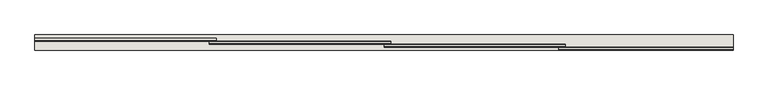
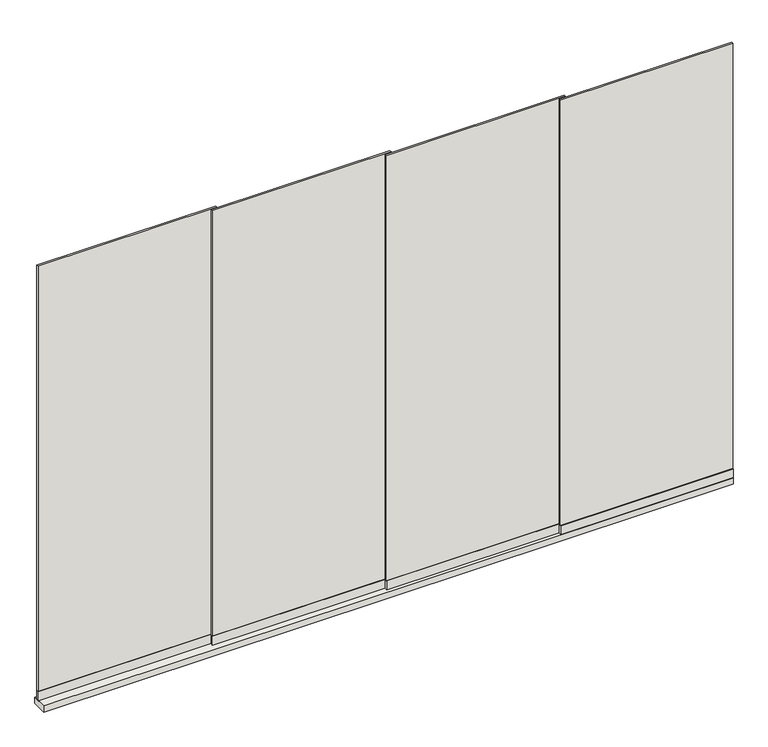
"""IFC4 building model written with IfcOpenShell, lengths in millimetres: wall geometry, Renson_Amani_Glass_Sliding_Panel : Renson_Amani_Glass_Sliding_Panel."""

import ifcopenshell
import ifcopenshell.guid

model = None  # the IFC model being written
_history = None  # IfcOwnerHistory: only IFC2X3 demands one
_inside = {}  # id of a spatial element -> (the spatial element, [elements in it])
_under = {}  # id of a project, library or spatial element -> (it, [spatial elements below it])
_declared = {}  # id of a project -> (the project, [libraries it declares])
_typed = {}  # id of a type object -> (the type object, [elements of that type])
_made_of = {}  # id of a material, layer set ... -> (it, [elements and type objects made of it])


def new_model(schema):
    """Start an empty IFC model of exactly this schema.

    Asked for "IFC4X3", IfcOpenShell would pick the latest addendum, in which some entities
    have other attributes; the version numbers below select the first issue.
    IFC2X3 requires an IfcOwnerHistory on every rooted entity: one is made here for all.
    """
    global model, _history
    if schema == "IFC4X3":
        model = ifcopenshell.file(schema_version=(4, 3, 0, 0))
    else:
        model = ifcopenshell.file(schema=schema)
    _inside.clear()
    _under.clear()
    _declared.clear()
    _typed.clear()
    _made_of.clear()
    _history = None
    if model.schema == "IFC2X3":
        org = make("IfcOrganization", Name="unknown")
        user = make(
            "IfcPersonAndOrganization",
            ThePerson=make("IfcPerson", FamilyName="unknown"),
            TheOrganization=org,
        )
        app = make(
            "IfcApplication",
            ApplicationDeveloper=org,
            Version="unknown",
            ApplicationFullName="unknown",
            ApplicationIdentifier="unknown",
        )
        _history = make(
            "IfcOwnerHistory",
            OwningUser=user,
            OwningApplication=app,
            ChangeAction="ADDED",
            CreationDate=0,
        )
    return model


def make(cls, **values):
    """One entity of the class cls with the attributes given. An attribute that is None is left unset."""
    return model.create_entity(
        cls, **{name: value for name, value in values.items() if value is not None}
    )


def rooted(cls, **values):
    """An entity with a GlobalId (a new one), such as an element, a storey or a relation."""
    return make(cls, GlobalId=ifcopenshell.guid.new(), OwnerHistory=_history, **values)


def si_unit(unit_type, name, prefix=None):
    """IfcSIUnit, for example si_unit("LENGTHUNIT", "METRE", prefix="MILLI")."""
    return make("IfcSIUnit", UnitType=unit_type, Prefix=prefix, Name=name)


def assignment(units):
    """IfcUnitAssignment: the units of a project."""
    return None if units is None else make("IfcUnitAssignment", Units=units)


def point(xyz):
    """IfcCartesianPoint."""
    return None if xyz is None else make("IfcCartesianPoint", Coordinates=xyz)


def direction(xyz):
    """IfcDirection."""
    return None if xyz is None else make("IfcDirection", DirectionRatios=xyz)


def frame(location, z_axis=None, x_axis=None):
    """IfcAxis2Placement3D, a coordinate frame: its origin and axes. An axis left out is left unset."""
    return make(
        "IfcAxis2Placement3D",
        Location=point(location),
        Axis=direction(z_axis),
        RefDirection=direction(x_axis),
    )


def origin():
    """The frame at (0, 0, 0) with its axes left unset."""
    return frame((0.0, 0.0, 0.0))


def origin_with_axes():
    """The frame at (0, 0, 0) with the z axis (0, 0, 1) and the x axis (1, 0, 0) written out."""
    return frame((0.0, 0.0, 0.0), z_axis=(0.0, 0.0, 1.0), x_axis=(1.0, 0.0, 0.0))


def place(relative_to, where):
    """IfcLocalPlacement: puts the frame where relative to a parent placement (None: the world)."""
    return make(
        "IfcLocalPlacement", PlacementRelTo=relative_to, RelativePlacement=where
    )


def context(
    kind, dimensions, precision=None, world=None, true_north=None, identifier=None
):
    """IfcGeometricRepresentationContext, for example the 3D "Model" context."""
    return make(
        "IfcGeometricRepresentationContext",
        ContextIdentifier=identifier,
        ContextType=kind,
        CoordinateSpaceDimension=dimensions,
        Precision=precision,
        WorldCoordinateSystem=world,
        TrueNorth=true_north,
    )


def project(units=None, contexts=None):
    """IfcProject with its units and contexts."""
    return rooted(
        "IfcProject",
        Name="project",
        RepresentationContexts=contexts,
        UnitsInContext=assignment(units),
    )


def spatial(cls, under=None, at=None, **own):
    """A site, building, storey or space (cls), placed at a placement, below another one or the project."""
    s = rooted(cls, ObjectPlacement=at, **own)
    if under is not None:
        _under.setdefault(under.id(), (under, []))[1].append(s)
    return s


def polyline(points):
    """IfcPolyline through the points."""
    return make("IfcPolyline", Points=[point(p) for p in points])


def outline(outer, holes=None, kind="AREA"):
    """IfcArbitraryClosedProfileDef: a profile drawn as a closed curve; with holes, ...WithVoids."""
    if holes is None:
        return make("IfcArbitraryClosedProfileDef", ProfileType=kind, OuterCurve=outer)
    return make(
        "IfcArbitraryProfileDefWithVoids",
        ProfileType=kind,
        OuterCurve=outer,
        InnerCurves=holes,
    )


def extrude(swept, where, along, depth):
    """IfcExtrudedAreaSolid: the profile swept, set in the frame where, extruded along a direction by depth."""
    return make(
        "IfcExtrudedAreaSolid",
        SweptArea=swept,
        Position=where,
        ExtrudedDirection=direction(along),
        Depth=depth,
    )


def shape(context_of_items, identifier, shape_type, items):
    """IfcShapeRepresentation: the items that make up one representation, for example the "Body"."""
    return make(
        "IfcShapeRepresentation",
        ContextOfItems=context_of_items,
        RepresentationIdentifier=identifier,
        RepresentationType=shape_type,
        Items=items,
    )


def source(mapping_origin, context_of_items, identifier, shape_type, items):
    """IfcRepresentationMap: a shape defined once, which mapped items show again and again."""
    return make(
        "IfcRepresentationMap",
        MappingOrigin=mapping_origin,
        MappedRepresentation=shape(context_of_items, identifier, shape_type, items),
    )


def transform(
    local_origin,
    x_axis=None,
    y_axis=None,
    z_axis=None,
    scale=None,
    scale2=None,
    scale3=None,
    uniform=True,
):
    """IfcCartesianTransformationOperator3D, or its non-uniform kind. x_axis, y_axis, z_axis: its Axis1, 2, 3."""
    if uniform:
        return make(
            "IfcCartesianTransformationOperator3D",
            Axis1=direction(x_axis),
            Axis2=direction(y_axis),
            LocalOrigin=point(local_origin),
            Scale=scale,
            Axis3=direction(z_axis),
        )
    return make(
        "IfcCartesianTransformationOperator3DnonUniform",
        Axis1=direction(x_axis),
        Axis2=direction(y_axis),
        LocalOrigin=point(local_origin),
        Scale=scale,
        Axis3=direction(z_axis),
        Scale2=scale2,
        Scale3=scale3,
    )


def mapped(mapping_source, mapping_target):
    """IfcMappedItem: shows the shape of a source again, moved by a transform."""
    return make(
        "IfcMappedItem", MappingSource=mapping_source, MappingTarget=mapping_target
    )


def made_of(thing, what):
    """Note that an element or type object is made of a material, layer set ...; save() writes the relation."""
    if what is not None:
        _made_of.setdefault(what.id(), (what, []))[1].append(thing)
    return thing


def element(
    cls,
    number,
    at=None,
    inside=None,
    cuts=None,
    type_object=None,
    material=None,
    context=None,
    identifier="Body",
    shape_type=None,
    held_by="IfcProductDefinitionShape",
    body=None,
    shapes=None,
    **own,
):
    """One element of the class cls, such as IfcWall. Its Tag is "e" and its number.

    at: its placement. inside: the storey or other place that contains it. cuts: it is an
    opening in that element (IfcRelVoidsElement). A single representation is given by context,
    identifier, shape_type and body (its items); several are given by shapes. held_by: the class
    of the entity that holds the representations. save() writes the other relations.
    """
    e = rooted(cls, Tag="e%d" % number, ObjectPlacement=at, **own)
    if body is not None:
        shapes = [shape(context, identifier, shape_type, body)]
    if shapes is not None:
        e.Representation = make(held_by, Representations=shapes)
    if inside is not None:
        _inside.setdefault(inside.id(), (inside, []))[1].append(e)
    if cuts is not None:
        rooted(
            "IfcRelVoidsElement", RelatingBuildingElement=cuts, RelatedOpeningElement=e
        )
    if type_object is not None:
        _typed.setdefault(type_object.id(), (type_object, []))[1].append(e)
    return made_of(e, material)


def aggregate(whole, parts):
    """IfcRelAggregates: a whole, such as a stair, and the parts it consists of."""
    return rooted("IfcRelAggregates", RelatingObject=whole, RelatedObjects=parts)


def save(model, path):
    """Write the relations noted so far, then the file.

    IfcRelAggregates (storeys below a building ...), IfcRelContainedInSpatialStructure (elements
    in a storey), IfcRelDefinesByType, IfcRelAssociatesMaterial and IfcRelDeclares: one each for
    every whole, place, type object, material and project.
    """
    for whole, parts in _under.values():
        aggregate(whole, parts)
    for where, things in _inside.values():
        rooted(
            "IfcRelContainedInSpatialStructure",
            RelatedElements=things,
            RelatingStructure=where,
        )
    for kind, things in _typed.values():
        rooted("IfcRelDefinesByType", RelatedObjects=things, RelatingType=kind)
    for what, things in _made_of.values():
        rooted("IfcRelAssociatesMaterial", RelatedObjects=things, RelatingMaterial=what)
    for by, libraries in _declared.values():
        rooted("IfcRelDeclares", RelatingContext=by, RelatedDefinitions=libraries)
    model.write(path)


def wall_eb70c0bf(model_context):
    return source(origin(), model_context, "Body", "SweptSolid", [
        extrude(outline(polyline([(-1990.0, 48.0), (-2950.0, 48.0), (-2950.0, 64.0), (-1990.0, 64.0), (-1990.0, 48.0)])), frame((0.0, 0.0, 35.0), z_axis=(0.0, 0.0, 1.0), x_axis=(1.0, 0.0, 0.0)), (0.0, 0.0, 1.0), 51.0),
        extrude(outline(polyline([(750.0, 0.0), (-2950.0, 0.0), (-2950.0, 80.0), (750.0, 80.0), (750.0, 0.0)])), origin_with_axes(), (0.0, 0.0, 1.0), 35.0),
        extrude(outline(polyline([(750.0, 3.0), (-175.0, 3.0), (-175.0, 13.0), (750.0, 13.0), (750.0, 3.0)])), frame((0.0, 0.0, 86.0), z_axis=(0.0, 0.0, 1.0), x_axis=(1.0, 0.0, 0.0)), (0.0, 0.0, 1.0), 2414.0),
        extrude(outline(polyline([(-140.0, 19.0), (-1100.0, 19.0), (-1100.0, 29.0), (-140.0, 29.0), (-140.0, 19.0)])), frame((0.0, 0.0, 86.0), z_axis=(0.0, 0.0, 1.0), x_axis=(1.0, 0.0, 0.0)), (0.0, 0.0, 1.0), 2414.0),
        extrude(outline(polyline([(-1990.0, 51.0), (-2950.0, 51.0), (-2950.0, 61.0), (-1990.0, 61.0), (-1990.0, 51.0)])), frame((0.0, 0.0, 86.0), z_axis=(0.0, 0.0, 1.0), x_axis=(1.0, 0.0, 0.0)), (0.0, 0.0, 1.0), 2414.0),
        extrude(outline(polyline([(-1065.0, 35.0), (-2025.0, 35.0), (-2025.0, 45.0), (-1065.0, 45.0), (-1065.0, 35.0)])), frame((0.0, 0.0, 86.0), z_axis=(0.0, 0.0, 1.0), x_axis=(1.0, 0.0, 0.0)), (0.0, 0.0, 1.0), 2414.0),
        extrude(outline(polyline([(750.0, 0.0), (-175.0, 0.0), (-175.0, 16.0), (750.0, 16.0), (750.0, 0.0)])), frame((0.0, 0.0, 35.0), z_axis=(0.0, 0.0, 1.0), x_axis=(1.0, 0.0, 0.0)), (0.0, 0.0, 1.0), 51.0),
        extrude(outline(polyline([(-140.0, 16.0), (-1100.0, 16.0), (-1100.0, 32.0), (-140.0, 32.0), (-140.0, 16.0)])), frame((0.0, 0.0, 35.0), z_axis=(0.0, 0.0, 1.0), x_axis=(1.0, 0.0, 0.0)), (0.0, 0.0, 1.0), 51.0),
        extrude(outline(polyline([(-1065.0, 32.0), (-2025.0, 32.0), (-2025.0, 48.0), (-1065.0, 48.0), (-1065.0, 32.0)])), frame((0.0, 0.0, 35.0), z_axis=(0.0, 0.0, 1.0), x_axis=(1.0, 0.0, 0.0)), (0.0, 0.0, 1.0), 51.0),
    ])


if __name__ == "__main__":
    model = new_model("IFC4")
    model_context = context("Model", 3, world=origin())
    ifc_project = project(units=[si_unit("LENGTHUNIT", "METRE", prefix="MILLI")], contexts=[model_context])
    site = spatial("IfcSite", under=ifc_project)
    building = spatial("IfcBuilding", under=site)
    placement = place(None, origin())
    wall_shape = wall_eb70c0bf(model_context)
    element("IfcWall", 1, ObjectType="Renson_Amani_Glass_Sliding_Panel : Renson_Amani_Glass_Sliding_Panel", at=placement, inside=building, context=model_context, shape_type="MappedRepresentation", body=[
        mapped(wall_shape, transform((0.0, 0.0, 0.0), x_axis=(1.0, 0.0, 0.0), y_axis=(0.0, 1.0, 0.0), z_axis=(0.0, 0.0, 1.0))),
    ])
    save(model, "model.ifc")
